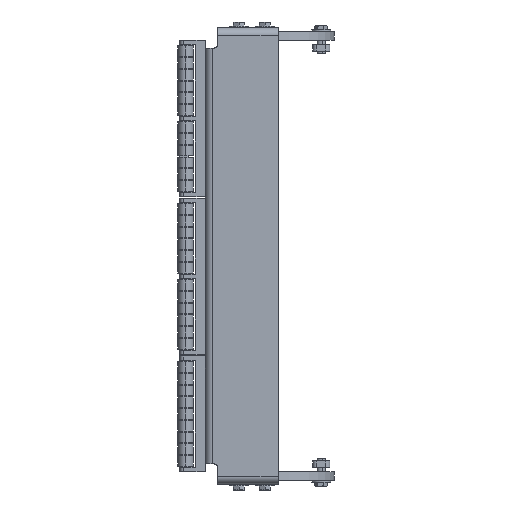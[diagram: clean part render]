
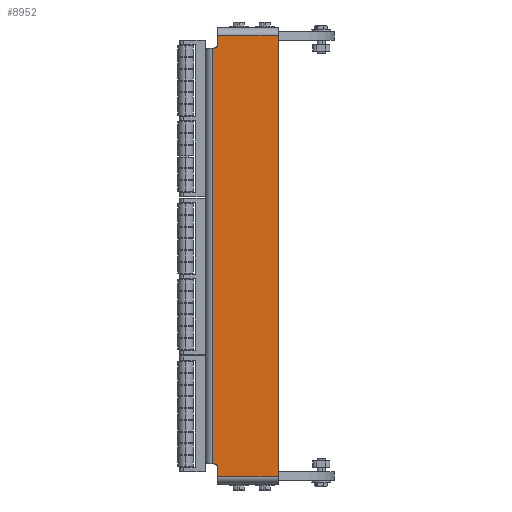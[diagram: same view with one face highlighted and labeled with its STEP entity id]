
A CAD part, left-side view. The second image highlights one B-rep face of the part: STEP entity #8952.
In plain terms, the highlighted planar face has unit normal (-1, 0, 0) as drawn and (1, 0, 0) by its records, which use the part's own axes.
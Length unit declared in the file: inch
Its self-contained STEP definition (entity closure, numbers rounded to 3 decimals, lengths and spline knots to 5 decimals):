
#7885=DIRECTION('',(0.,-1.,0.));
#7886=VECTOR('',#7885,0.023);
#7887=CARTESIAN_POINT('',(0.,0.9605,6.));
#7888=LINE('',#7887,#7886);
#7889=DIRECTION('',(0.,1.,0.));
#7890=VECTOR('',#7889,0.023);
#7891=CARTESIAN_POINT('',(0.,0.9375,-6.));
#7892=LINE('',#7891,#7890);
#7893=CARTESIAN_POINT('',(0.,0.9375,-6.125));
#7894=DIRECTION('',(-1.,0.,0.));
#7895=DIRECTION('',(0.,-1.,0.));
#7896=AXIS2_PLACEMENT_3D('',#7893,#7894,#7895);
#7898=DIRECTION('',(0.,0.,1.));
#7899=VECTOR('',#7898,0.25);
#7900=CARTESIAN_POINT('',(0.,0.8125,-6.375));
#7901=LINE('',#7900,#7899);
#7902=DIRECTION('',(0.,0.,1.));
#7903=VECTOR('',#7902,0.25);
#7904=CARTESIAN_POINT('',(0.,0.8125,6.125));
#7905=LINE('',#7904,#7903);
#7906=CARTESIAN_POINT('',(0.,0.9375,6.125));
#7907=DIRECTION('',(-1.,0.,0.));
#7908=DIRECTION('',(0.,0.,-1.));
#7909=AXIS2_PLACEMENT_3D('',#7906,#7907,#7908);
#7941=DIRECTION('',(0.,0.,-1.));
#7942=VECTOR('',#7941,12.);
#7943=CARTESIAN_POINT('',(0.,0.9605,6.));
#7944=LINE('',#7943,#7942);
#8125=DIRECTION('',(0.,0.,1.));
#8126=VECTOR('',#8125,12.75);
#8127=CARTESIAN_POINT('',(0.,-0.9375,-6.375));
#8128=LINE('',#8127,#8126);
#8265=DIRECTION('',(0.,1.,0.));
#8266=VECTOR('',#8265,1.75);
#8267=CARTESIAN_POINT('',(0.,-0.9375,6.375));
#8268=LINE('',#8267,#8266);
#8345=DIRECTION('',(0.,-1.,0.));
#8346=VECTOR('',#8345,1.75);
#8347=CARTESIAN_POINT('',(0.,0.8125,-6.375));
#8348=LINE('',#8347,#8346);
#8501=CARTESIAN_POINT('',(0.,0.9605,6.));
#8503=VERTEX_POINT('',#8501);
#8513=CARTESIAN_POINT('',(0.,0.9605,-6.));
#8514=VERTEX_POINT('',#8513);
#8555=CARTESIAN_POINT('',(0.,0.8125,6.125));
#8556=CARTESIAN_POINT('',(0.,0.8125,6.375));
#8557=VERTEX_POINT('',#8555);
#8558=VERTEX_POINT('',#8556);
#8568=CARTESIAN_POINT('',(0.,-0.9375,-6.375));
#8570=VERTEX_POINT('',#8568);
#8581=CARTESIAN_POINT('',(0.,0.8125,-6.125));
#8582=VERTEX_POINT('',#8581);
#8615=CARTESIAN_POINT('',(0.,0.8125,-6.375));
#8616=VERTEX_POINT('',#8615);
#8619=CARTESIAN_POINT('',(0.,0.9375,-6.));
#8620=VERTEX_POINT('',#8619);
#8631=CARTESIAN_POINT('',(0.,-0.9375,6.375));
#8632=VERTEX_POINT('',#8631);
#8663=CARTESIAN_POINT('',(0.,0.9375,6.));
#8664=VERTEX_POINT('',#8663);
#8926=CARTESIAN_POINT('',(0.,0.,0.));
#8927=DIRECTION('',(1.,0.,0.));
#8928=DIRECTION('',(0.,0.,-1.));
#8929=AXIS2_PLACEMENT_3D('',#8926,#8927,#8928);
#8930=PLANE('',#8929);
#8932=ORIENTED_EDGE('',*,*,#8931,.F.);
#8934=ORIENTED_EDGE('',*,*,#8933,.T.);
#8936=ORIENTED_EDGE('',*,*,#8935,.F.);
#8938=ORIENTED_EDGE('',*,*,#8937,.F.);
#8940=ORIENTED_EDGE('',*,*,#8939,.F.);
#8942=ORIENTED_EDGE('',*,*,#8941,.T.);
#8944=ORIENTED_EDGE('',*,*,#8943,.T.);
#8946=ORIENTED_EDGE('',*,*,#8945,.T.);
#8947=ORIENTED_EDGE('',*,*,#8916,.F.);
#8949=ORIENTED_EDGE('',*,*,#8948,.F.);
#8950=EDGE_LOOP('',(#8932,#8934,#8936,#8938,#8940,#8942,#8944,#8946,#8947,
#8949));
#8951=FACE_OUTER_BOUND('',#8950,.F.);
#7897=CIRCLE('',#7896,0.125);
#7910=CIRCLE('',#7909,0.125);
#8916=EDGE_CURVE('',#8557,#8558,#7905,.T.);
#8931=EDGE_CURVE('',#8503,#8664,#7888,.T.);
#8933=EDGE_CURVE('',#8503,#8514,#7944,.T.);
#8935=EDGE_CURVE('',#8620,#8514,#7892,.T.);
#8937=EDGE_CURVE('',#8582,#8620,#7897,.T.);
#8939=EDGE_CURVE('',#8616,#8582,#7901,.T.);
#8941=EDGE_CURVE('',#8616,#8570,#8348,.T.);
#8943=EDGE_CURVE('',#8570,#8632,#8128,.T.);
#8945=EDGE_CURVE('',#8632,#8558,#8268,.T.);
#8948=EDGE_CURVE('',#8664,#8557,#7910,.T.);
#8952=ADVANCED_FACE('',(#8951),#8930,.T.);
